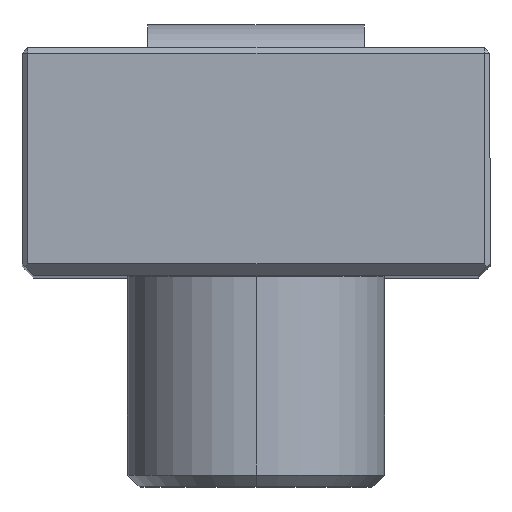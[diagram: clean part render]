
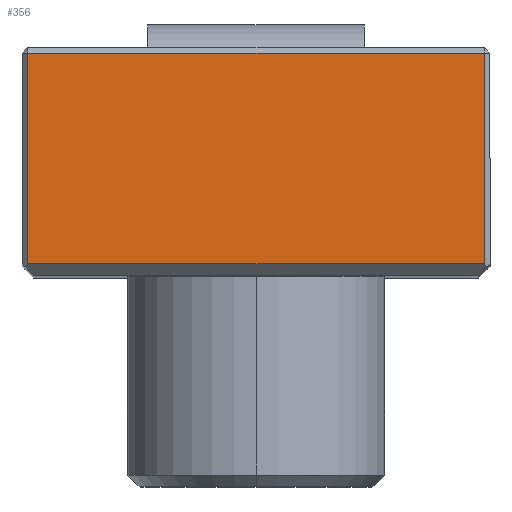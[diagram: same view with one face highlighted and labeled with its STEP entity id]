
A CAD part, top view. The second image highlights one B-rep face of the part: STEP entity #356.
In plain terms, the highlighted planar face has unit normal (0, 0, 1).
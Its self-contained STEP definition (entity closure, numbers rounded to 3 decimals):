
#328 = VERTEX_POINT ( 'NONE', #1042 ) ;
#329 = ORIENTED_EDGE ( 'NONE', *, *, #330, .T. ) ;
#330 = EDGE_CURVE ( 'NONE', #328, #442, #1041, .T. ) ;
#356 = ADVANCED_FACE ( 'NONE', ( #1116 ), #1115, .F. ) ;
#357 = ORIENTED_EDGE ( 'NONE', *, *, #358, .T. ) ;
#358 = EDGE_CURVE ( 'NONE', #359, #328, #1114, .T. ) ;
#359 = VERTEX_POINT ( 'NONE', #1106 ) ;
#360 = ORIENTED_EDGE ( 'NONE', *, *, #361, .T. ) ;
#361 = EDGE_CURVE ( 'NONE', #442, #443, #1105, .T. ) ;
#418 = ORIENTED_EDGE ( 'NONE', *, *, #419, .T. ) ;
#419 = EDGE_CURVE ( 'NONE', #443, #359, #1197, .T. ) ;
#439 = EDGE_LOOP ( 'NONE', ( #357, #329, #360, #418 ) ) ;
#442 = VERTEX_POINT ( 'NONE', #1284 ) ;
#443 = VERTEX_POINT ( 'NONE', #1283 ) ;
#1038 = DIRECTION ( 'NONE',  ( 1., 0., 0. ) ) ;
#1039 = VECTOR ( 'NONE', #1038, 1000. ) ;
#1040 = CARTESIAN_POINT ( 'NONE',  ( 19.5, 1., 60. ) ) ;
#1041 = LINE ( 'NONE', #1040, #1039 ) ;
#1042 = CARTESIAN_POINT ( 'NONE',  ( -19.5, 1., 60. ) ) ;
#1102 = DIRECTION ( 'NONE',  ( 0., 1., 0. ) ) ;
#1103 = VECTOR ( 'NONE', #1102, 1000. ) ;
#1104 = CARTESIAN_POINT ( 'NONE',  ( 19.5, 19.5, 60. ) ) ;
#1105 = LINE ( 'NONE', #1104, #1103 ) ;
#1106 = CARTESIAN_POINT ( 'NONE',  ( -19.5, 19., 60. ) ) ;
#1107 = DIRECTION ( 'NONE',  ( 0., -1., 0. ) ) ;
#1108 = VECTOR ( 'NONE', #1107, 1000. ) ;
#1109 = CARTESIAN_POINT ( 'NONE',  ( -19.5, 0., 60. ) ) ;
#1110 = DIRECTION ( 'NONE',  ( -1., 0., 0. ) ) ;
#1111 = DIRECTION ( 'NONE',  ( 0., 0., -1. ) ) ;
#1112 = CARTESIAN_POINT ( 'NONE',  ( 20., 19.5, 60. ) ) ;
#1113 = AXIS2_PLACEMENT_3D ( 'NONE', #1112, #1111, #1110 ) ;
#1114 = LINE ( 'NONE', #1109, #1108 ) ;
#1115 = PLANE ( 'NONE',  #1113 ) ;
#1116 = FACE_OUTER_BOUND ( 'NONE', #439, .T. ) ;
#1194 = DIRECTION ( 'NONE',  ( -1., 0., 0. ) ) ;
#1195 = VECTOR ( 'NONE', #1194, 1000. ) ;
#1196 = CARTESIAN_POINT ( 'NONE',  ( -20., 19., 60. ) ) ;
#1197 = LINE ( 'NONE', #1196, #1195 ) ;
#1283 = CARTESIAN_POINT ( 'NONE',  ( 19.5, 19., 60. ) ) ;
#1284 = CARTESIAN_POINT ( 'NONE',  ( 19.5, 1., 60. ) ) ;
